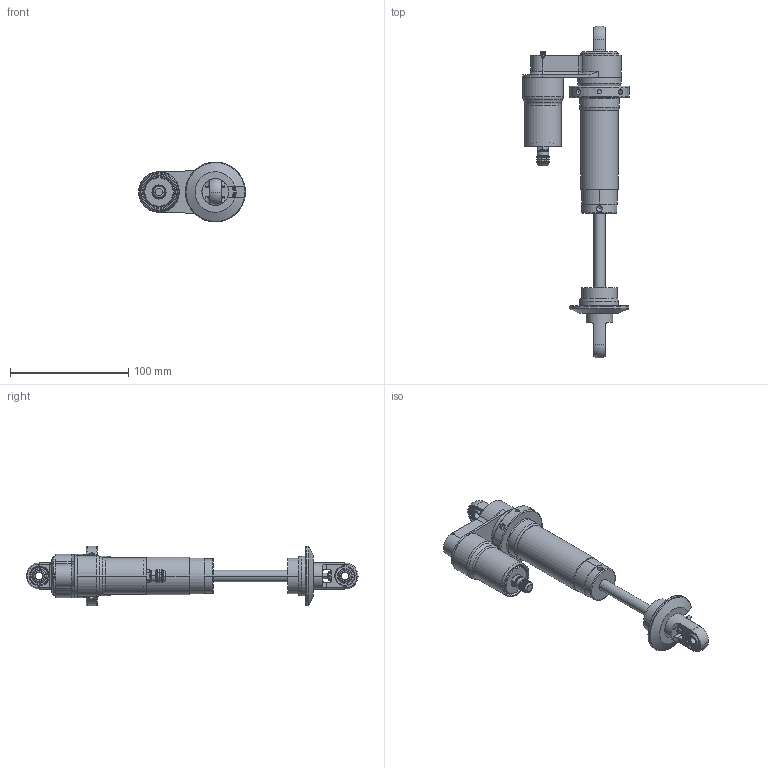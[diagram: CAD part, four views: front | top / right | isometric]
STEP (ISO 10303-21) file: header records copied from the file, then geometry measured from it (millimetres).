
FILE_DESCRIPTION((''),'2;1');
FILE_NAME('PS_78PB_DA_3','2010-06-21T',('Reedgr'),(''),'PRO/ENGINEER BY PARAMETRIC TECHNOLOGY CORPORATION, 2008090','PRO/ENGINEER BY PARAMETRIC TECHNOLOGY CORPORATION, 2008090','');
FILE_SCHEMA(('CONFIG_CONTROL_DESIGN'));
Length unit declared in the file: inch
Products named in the file (1): PS_78PB_DA_3
Bounding box: 90.04 x 280.42 x 50.55 mm (x, y, z)
Surface area: 54265.6 mm2 (no closed solid volume)
Topology: 0 solids, 42 shells, 549 faces, 1946 edges, 1389 vertices
Faces by surface type: cylinder 260, cone 110, plane 89, torus 74, sphere 12, bspline 4
Entity records: 23102 total; most frequent: CARTESIAN_POINT 7695, DIRECTION 3159, ORIENTED_EDGE 2851, EDGE_CURVE 1894, VERTEX_POINT 1381, AXIS2_PLACEMENT_3D 1273, CIRCLE 736, VECTOR 613
